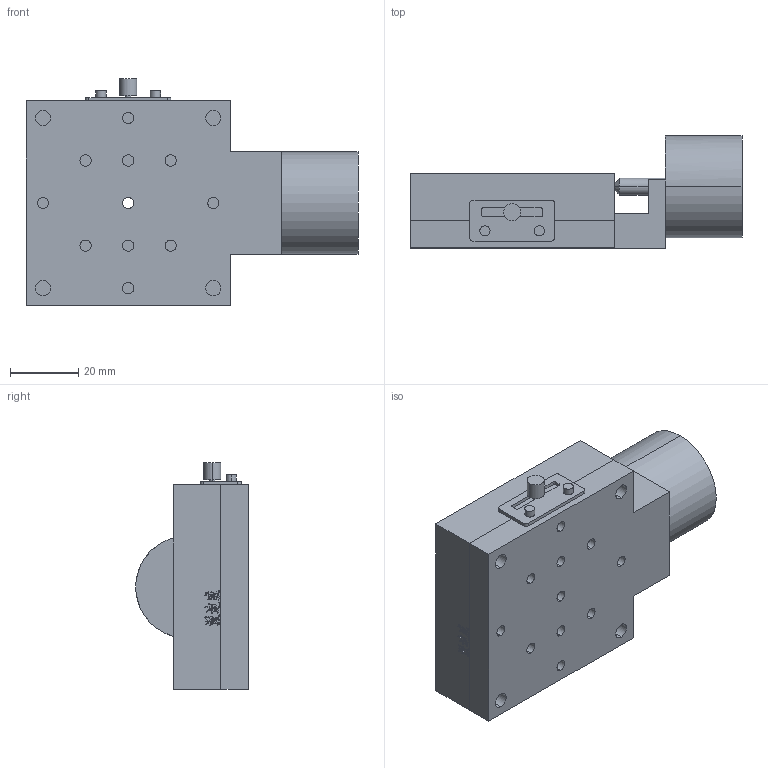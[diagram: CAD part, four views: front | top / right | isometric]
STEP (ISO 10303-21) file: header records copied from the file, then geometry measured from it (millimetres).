
FILE_DESCRIPTION (( 'STEP AP214' ), '1' );
FILE_NAME ('PT60-13G.STEP', '2022-09-12T02:32:16', ( '' ), ( '' ), 'SwSTEP 2.0', 'SolidWorks 2017', '' );
FILE_SCHEMA (( 'AUTOMOTIVE_DESIGN' ));
Length unit declared in the file: millimetre
Products named in the file (3): 菁釱; PT60-13G; 奻釱
Assembly tree (2 placements, depth 2):
  PT60-13G
    菁釱
    奻釱
Bounding box: 97.5 x 33 x 66.5 mm (x, y, z)
Volume: 98273.2 mm3; surface area: 28137.2 mm2
Topology: 2 solids, 2 shells, 1109 faces, 3124 edges, 2052 vertices
Faces by surface type: plane 731, bspline 252, cylinder 92, cone 34
Entity records: 46534 total; most frequent: CARTESIAN_POINT 18814, ORIENTED_EDGE 6184, DIRECTION 4502, EDGE_CURVE 3092, VECTOR 2398, LINE 2398, VERTEX_POINT 2052, EDGE_LOOP 1206
